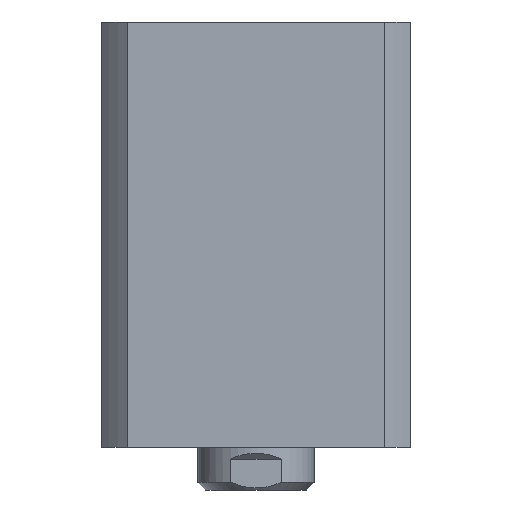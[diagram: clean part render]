
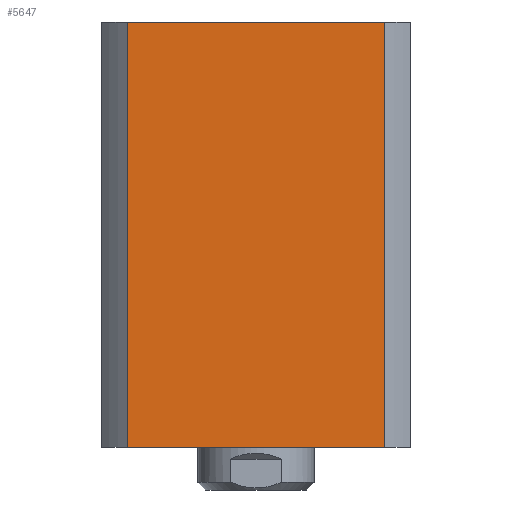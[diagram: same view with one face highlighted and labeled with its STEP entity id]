
A CAD part, left-side view. The second image highlights one B-rep face of the part: STEP entity #5647.
In plain terms, the highlighted planar face has unit normal (-1, 0, 0).
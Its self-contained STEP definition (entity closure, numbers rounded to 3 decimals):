
#411 = PLANE ( 'NONE',  #10147 ) ;
#1076 = ORIENTED_EDGE ( 'NONE', *, *, #1955, .F. ) ;
#1273 = VERTEX_POINT ( 'NONE', #9721 ) ;
#1450 = FACE_OUTER_BOUND ( 'NONE', #13624, .T. ) ;
#1955 = EDGE_CURVE ( 'NONE', #1273, #10062, #5269, .T. ) ;
#2495 = DIRECTION ( 'NONE',  ( 0., 1., 0. ) ) ;
#2624 = EDGE_CURVE ( 'NONE', #4220, #9040, #7593, .T. ) ;
#2873 = CARTESIAN_POINT ( 'NONE',  ( -40., -33.226, 55. ) ) ;
#3186 = ORIENTED_EDGE ( 'NONE', *, *, #4910, .F. ) ;
#3404 = CARTESIAN_POINT ( 'NONE',  ( -40., 33.226, 55. ) ) ;
#3549 = DIRECTION ( 'NONE',  ( 0., -1., 0. ) ) ;
#3582 = VECTOR ( 'NONE', #11020, 1000. ) ;
#4220 = VERTEX_POINT ( 'NONE', #5785 ) ;
#4910 = EDGE_CURVE ( 'NONE', #10062, #9040, #13675, .T. ) ;
#5034 = VECTOR ( 'NONE', #13668, 1000. ) ;
#5088 = DIRECTION ( 'NONE',  ( 0., -1., 0. ) ) ;
#5269 = LINE ( 'NONE', #12285, #12363 ) ;
#5647 = ADVANCED_FACE ( 'NONE', ( #1450 ), #411, .F. ) ;
#5785 = CARTESIAN_POINT ( 'NONE',  ( -40., 33.226, -55. ) ) ;
#6724 = CARTESIAN_POINT ( 'NONE',  ( -40., -33.226, -55. ) ) ;
#7057 = CARTESIAN_POINT ( 'NONE',  ( -40., 33.226, 55. ) ) ;
#7186 = CARTESIAN_POINT ( 'NONE',  ( -40., 33.226, -55. ) ) ;
#7447 = VECTOR ( 'NONE', #5088, 1000. ) ;
#7593 = LINE ( 'NONE', #7186, #7447 ) ;
#8202 = LINE ( 'NONE', #3404, #3582 ) ;
#8583 = EDGE_CURVE ( 'NONE', #1273, #4220, #8202, .T. ) ;
#9040 = VERTEX_POINT ( 'NONE', #6724 ) ;
#9213 = ORIENTED_EDGE ( 'NONE', *, *, #2624, .T. ) ;
#9721 = CARTESIAN_POINT ( 'NONE',  ( -40., 33.226, 55. ) ) ;
#10062 = VERTEX_POINT ( 'NONE', #10592 ) ;
#10147 = AXIS2_PLACEMENT_3D ( 'NONE', #7057, #12440, #2495 ) ;
#10592 = CARTESIAN_POINT ( 'NONE',  ( -40., -33.226, 55. ) ) ;
#11020 = DIRECTION ( 'NONE',  ( 0., 0., -1. ) ) ;
#12285 = CARTESIAN_POINT ( 'NONE',  ( -40., 33.226, 55. ) ) ;
#12363 = VECTOR ( 'NONE', #3549, 1000. ) ;
#12440 = DIRECTION ( 'NONE',  ( 1., 0., 0. ) ) ;
#13264 = ORIENTED_EDGE ( 'NONE', *, *, #8583, .T. ) ;
#13624 = EDGE_LOOP ( 'NONE', ( #9213, #3186, #1076, #13264 ) ) ;
#13668 = DIRECTION ( 'NONE',  ( 0., 0., -1. ) ) ;
#13675 = LINE ( 'NONE', #2873, #5034 ) ;
